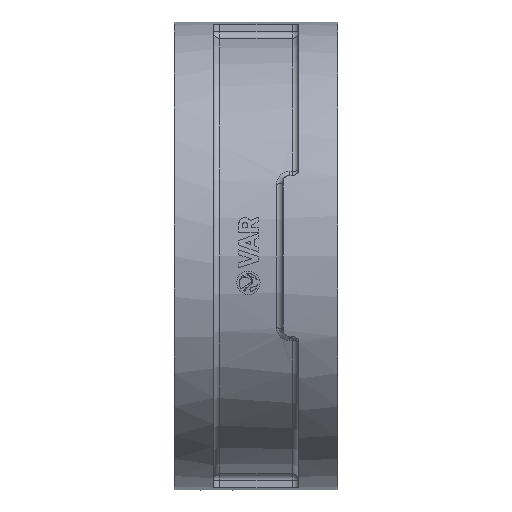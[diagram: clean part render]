
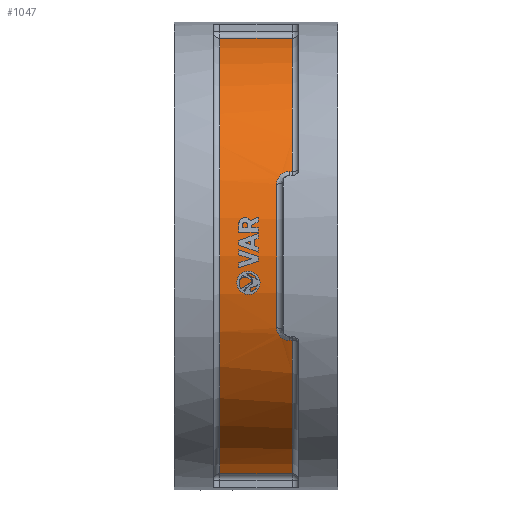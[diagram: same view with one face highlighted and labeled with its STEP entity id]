
A CAD part, left-side view. The second image highlights one B-rep face of the part: STEP entity #1047.
In plain terms, the highlighted cylindrical face has radius 103 mm (diameter 206 mm), a partial arc.
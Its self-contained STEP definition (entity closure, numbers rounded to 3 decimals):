
#1047=ADVANCED_FACE('',(#3812),#3814,.T.);
#3812=FACE_BOUND('',#3813,.T.);
#3813=EDGE_LOOP('',(#11748,#11749,#11750,#11751,#11752,#11753,#11754,#11755,#11756,
#11757));
#3814=CYLINDRICAL_SURFACE('',#3815,103.);
#3815=AXIS2_PLACEMENT_3D('',#3816,#3817,#3818);
#3816=CARTESIAN_POINT('',(0.,18.,0.));
#3817=DIRECTION('',(0.,1.,0.));
#3818=DIRECTION('',(-1.,0.,0.));
#11748=ORIENTED_EDGE('',*,*,#14450,.F.);
#11749=ORIENTED_EDGE('',*,*,#14451,.T.);
#11750=ORIENTED_EDGE('',*,*,#14452,.F.);
#11751=ORIENTED_EDGE('',*,*,#14453,.F.);
#11752=ORIENTED_EDGE('',*,*,#14454,.F.);
#11753=ORIENTED_EDGE('',*,*,#14455,.T.);
#11754=ORIENTED_EDGE('',*,*,#14456,.F.);
#11755=ORIENTED_EDGE('',*,*,#14457,.F.);
#11756=ORIENTED_EDGE('',*,*,#14458,.F.);
#11757=ORIENTED_EDGE('',*,*,#14459,.F.);
#14450=EDGE_CURVE('',#15572,#15573,#15574,.T.);
#14451=EDGE_CURVE('',#15572,#15575,#15576,.T.);
#14452=EDGE_CURVE('',#15577,#15575,#15578,.F.);
#14453=EDGE_CURVE('',#15579,#15577,#15580,.T.);
#14454=EDGE_CURVE('',#15581,#15579,#15582,.T.);
#14455=EDGE_CURVE('',#15581,#15583,#15584,.T.);
#14456=EDGE_CURVE('',#15585,#15583,#15586,.F.);
#14457=EDGE_CURVE('',#15587,#15585,#15588,.T.);
#14458=EDGE_CURVE('',#15589,#15587,#15590,.F.);
#14459=EDGE_CURVE('',#15573,#15589,#15591,.F.);
#15572=VERTEX_POINT('',#18717);
#15573=VERTEX_POINT('',#18718);
#15574=LINE('',#18719,#18720);
#15575=VERTEX_POINT('',#18722);
#15576=CIRCLE('',#18723,103.);
#15577=VERTEX_POINT('',#18727);
#15578=LINE('',#18728,#18729);
#15579=VERTEX_POINT('',#18731);
#15580=CIRCLE('',#18732,103.);
#15581=VERTEX_POINT('',#18736);
#15582=LINE('',#18737,#18738);
#15583=VERTEX_POINT('',#18740);
#15584=CIRCLE('',#18741,103.);
#15585=VERTEX_POINT('',#18745);
#15586=LINE('',#18746,#18747);
#15587=VERTEX_POINT('',#18749);
#15588=B_SPLINE_CURVE_WITH_KNOTS('',3,
(#18750,#18751,#18752,#18753,#18754,#18755,#18756,#18757,#18758,#18759,#18760,#18761,
#18762,#18763,#18764,#18765,#18766,#18767,#18768,#18769,#18770,#18771,#18772),
.UNSPECIFIED.,.F.,.F.,
(4,1,1,1,1,1,1,1,1,1,1,1,1,1,1,1,1,1,1,1,4),
(0.,0.017,0.032,0.052,0.075,0.105,
0.144,0.197,0.269,0.349,0.434,
0.511,0.585,0.652,0.715,0.774,
0.828,0.878,0.931,0.97,1.),
.UNSPECIFIED.);
#15589=VERTEX_POINT('',#18773);
#15590=CIRCLE('',#18774,103.);
#15591=B_SPLINE_CURVE_WITH_KNOTS('',3,
(#18778,#18779,#18780,#18781,#18782,#18783,#18784,#18785,#18786,#18787,#18788,#18789,
#18790,#18791,#18792,#18793,#18794,#18795,#18796,#18797,#18798,#18799,#18800),
.UNSPECIFIED.,.F.,.F.,
(4,1,1,1,1,1,1,1,1,1,1,1,1,1,1,1,1,1,1,1,4),
(0.,0.017,0.032,0.052,0.075,0.105,
0.144,0.197,0.269,0.349,0.434,
0.511,0.585,0.652,0.715,0.774,
0.827,0.878,0.931,0.97,1.),
.UNSPECIFIED.);
#18717=CARTESIAN_POINT('',(-95.186,21.,39.354));
#18718=CARTESIAN_POINT('',(-95.186,22.333,39.354));
#18719=CARTESIAN_POINT('',(-95.186,21.,39.354));
#18720=VECTOR('',#18721,1.);
#18721=DIRECTION('',(0.,1.,0.));
#18722=CARTESIAN_POINT('',(-17.782,21.,101.453));
#18723=AXIS2_PLACEMENT_3D('',#18724,#18725,#18726);
#18724=CARTESIAN_POINT('',(0.,21.,0.));
#18725=DIRECTION('',(0.,1.,0.));
#18726=DIRECTION('',(-0.924,0.,0.382));
#18727=CARTESIAN_POINT('',(-17.782,55.,101.453));
#18728=CARTESIAN_POINT('',(-17.782,21.,101.453));
#18729=VECTOR('',#18730,1.);
#18730=DIRECTION('',(0.,1.,0.));
#18731=CARTESIAN_POINT('',(-17.782,55.,-101.453));
#18732=AXIS2_PLACEMENT_3D('',#18733,#18734,#18735);
#18733=CARTESIAN_POINT('',(0.,55.,0.));
#18734=DIRECTION('',(0.,1.,0.));
#18735=DIRECTION('',(-0.173,0.,-0.985));
#18736=CARTESIAN_POINT('',(-17.782,21.,-101.453));
#18737=CARTESIAN_POINT('',(-17.782,21.,-101.453));
#18738=VECTOR('',#18739,1.);
#18739=DIRECTION('',(0.,1.,0.));
#18740=CARTESIAN_POINT('',(-95.186,21.,-39.354));
#18741=AXIS2_PLACEMENT_3D('',#18742,#18743,#18744);
#18742=CARTESIAN_POINT('',(0.,21.,0.));
#18743=DIRECTION('',(0.,1.,0.));
#18744=DIRECTION('',(-0.173,0.,-0.985));
#18745=CARTESIAN_POINT('',(-95.186,22.333,-39.354));
#18746=CARTESIAN_POINT('',(-95.186,21.,-39.354));
#18747=VECTOR('',#18748,1.);
#18748=DIRECTION('',(0.,1.,0.));
#18749=CARTESIAN_POINT('',(-97.392,28.333,-33.524));
#18750=CARTESIAN_POINT('',(-97.392,28.333,-33.524));
#18751=CARTESIAN_POINT('',(-97.375,28.332,-33.572));
#18752=CARTESIAN_POINT('',(-97.342,28.331,-33.667));
#18753=CARTESIAN_POINT('',(-97.29,28.327,-33.818));
#18754=CARTESIAN_POINT('',(-97.231,28.315,-33.988));
#18755=CARTESIAN_POINT('',(-97.156,28.294,-34.201));
#18756=CARTESIAN_POINT('',(-97.062,28.257,-34.467));
#18757=CARTESIAN_POINT('',(-96.938,28.189,-34.816));
#18758=CARTESIAN_POINT('',(-96.771,28.065,-35.278));
#18759=CARTESIAN_POINT('',(-96.564,27.854,-35.84));
#18760=CARTESIAN_POINT('',(-96.33,27.532,-36.464));
#18761=CARTESIAN_POINT('',(-96.102,27.123,-37.06));
#18762=CARTESIAN_POINT('',(-95.894,26.646,-37.597));
#18763=CARTESIAN_POINT('',(-95.717,26.141,-38.045));
#18764=CARTESIAN_POINT('',(-95.568,25.615,-38.417));
#18765=CARTESIAN_POINT('',(-95.448,25.087,-38.714));
#18766=CARTESIAN_POINT('',(-95.354,24.564,-38.945));
#18767=CARTESIAN_POINT('',(-95.283,24.055,-39.116));
#18768=CARTESIAN_POINT('',(-95.232,23.546,-39.241));
#18769=CARTESIAN_POINT('',(-95.201,23.074,-39.315));
#18770=CARTESIAN_POINT('',(-95.188,22.665,-39.348));
#18771=CARTESIAN_POINT('',(-95.186,22.433,-39.354));
#18772=CARTESIAN_POINT('',(-95.186,22.333,-39.354));
#18773=CARTESIAN_POINT('',(-97.392,28.333,33.524));
#18774=AXIS2_PLACEMENT_3D('',#18775,#18776,#18777);
#18775=CARTESIAN_POINT('',(0.,28.333,0.));
#18776=DIRECTION('',(0.,1.,0.));
#18777=DIRECTION('',(-0.946,0.,-0.325));
#18778=CARTESIAN_POINT('',(-97.392,28.333,33.524));
#18779=CARTESIAN_POINT('',(-97.375,28.332,33.572));
#18780=CARTESIAN_POINT('',(-97.342,28.331,33.667));
#18781=CARTESIAN_POINT('',(-97.29,28.327,33.818));
#18782=CARTESIAN_POINT('',(-97.231,28.315,33.988));
#18783=CARTESIAN_POINT('',(-97.156,28.294,34.201));
#18784=CARTESIAN_POINT('',(-97.062,28.257,34.467));
#18785=CARTESIAN_POINT('',(-96.938,28.189,34.816));
#18786=CARTESIAN_POINT('',(-96.771,28.065,35.278));
#18787=CARTESIAN_POINT('',(-96.564,27.853,35.841));
#18788=CARTESIAN_POINT('',(-96.33,27.532,36.465));
#18789=CARTESIAN_POINT('',(-96.102,27.123,37.061));
#18790=CARTESIAN_POINT('',(-95.894,26.645,37.597));
#18791=CARTESIAN_POINT('',(-95.717,26.141,38.045));
#18792=CARTESIAN_POINT('',(-95.568,25.615,38.417));
#18793=CARTESIAN_POINT('',(-95.448,25.088,38.714));
#18794=CARTESIAN_POINT('',(-95.354,24.565,38.944));
#18795=CARTESIAN_POINT('',(-95.284,24.057,39.116));
#18796=CARTESIAN_POINT('',(-95.232,23.549,39.24));
#18797=CARTESIAN_POINT('',(-95.202,23.077,39.315));
#18798=CARTESIAN_POINT('',(-95.188,22.668,39.348));
#18799=CARTESIAN_POINT('',(-95.186,22.434,39.354));
#18800=CARTESIAN_POINT('',(-95.186,22.333,39.354));
